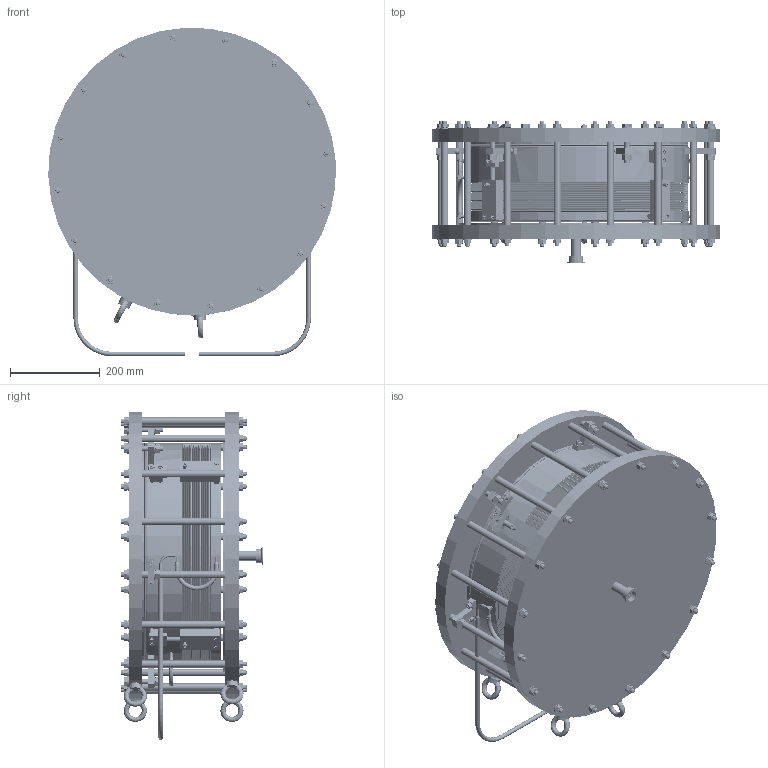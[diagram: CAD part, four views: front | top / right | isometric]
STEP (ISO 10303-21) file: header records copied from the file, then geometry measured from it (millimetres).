
FILE_DESCRIPTION(/* description */ ('靶站充气型波纹管'),/* implementation_level */ '2;1');
FILE_NAME(/* name */ 'D:\work\inventor\缪子线3-4\氦容器5-7\充气型波纹管_表面缪侧_390mm后检漏工装.stp',/* time_stamp */ '2026-09-14T17:06:00+08:00',/* author */ ('Administrator'),/* organization */ (''),/* preprocessor_version */ 'ST-DEVELOPER v18',/* originating_system */ 'Autodesk Inventor 2020',/* authorisation */ '');
FILE_SCHEMA (('AUTOMOTIVE_DESIGN { 1 0 10303 214 3 1 1 }'));
Length unit declared in the file: millimetre
Products named in the file (38): 充气型波纹管_表面缪侧_
390mm后检漏工装; 厚法兰_表面缪侧_390mm 后; 内膨胀节_表面缪侧_390m
m后; 外膨胀节_表面缪侧_390m
m后; 薄膜法兰_表面缪侧_390m
m; 外薄膜_表面缪侧_390mm; 内薄膜-_表面缪侧_390mm; 右两通块_表面缪侧_390m
m; 左两通块_表面缪侧_390m
m; 两通块_表面缪侧_390mm; 软连接管表面缪侧_390mm后; 异型管接头_表面缪侧_
390mm; 气压管_表面缪侧_390mm外侧; 导向机构2; 螺钉 GB/T 70.1 M6 x 30(1); 导向滑块2_表面缪侧_610
mm; 垫圈 GB 93-87 6; 导向滑块1_表面缪侧_610
mm; 螺钉 GB/T 70.1 M6 x 12(1); 螺钉 GB/T 70.1 M6 x 25(1); 挡块; 螺钉 GB/T 70.1 M4 x 12(1); 真空连接管1; 真空连接管3-1; 固定法兰390; 密封法兰390; 六角螺栓 GB/T 5780 M12 x 80; 固定板390; 螺钉 GB/T 70.1 M8 x 30(1); 螺母 GB/T 6170 M12; 平垫圈 GB/T 97.1 12; 限距管用于390; 螺杆用于390; 螺母 GB/T 6170 M10; 平垫圈 GB/T 97.1 10; KF25连接管; KF25; 螺栓 GB 825 B M12
Assembly tree (185 placements, depth 3):
  充气型波纹管_表面缪侧_
390mm后检漏工装
    厚法兰_表面缪侧_390mm 后
    内膨胀节_表面缪侧_390m
m后
    外膨胀节_表面缪侧_390m
m后
    薄膜法兰_表面缪侧_390m
m
    外薄膜_表面缪侧_390mm
    内薄膜-_表面缪侧_390mm
    两通块_表面缪侧_390mm  x2
    右两通块_表面缪侧_390m
m
    软连接管表面缪侧_390mm后  x2
    左两通块_表面缪侧_390m
m
    异型管接头_表面缪侧_
390mm  x2
    气压管_表面缪侧_390mm外侧
    导向机构2  x4
      螺钉 GB/T 70.1 M6 x 30(1)
      垫圈 GB 93-87 6
      导向滑块2_表面缪侧_610
mm
      螺钉 GB/T 70.1 M6 x 25(1)
      导向滑块1_表面缪侧_610
mm
      螺钉 GB/T 70.1 M6 x 12(1)
      挡块
      螺钉 GB/T 70.1 M4 x 12(1)
    真空连接管1  x2
    真空连接管3-1  x2
    固定法兰390
    密封法兰390
    六角螺栓 GB/T 5780 M12 x 80  x6
    平垫圈 GB/T 97.1 12  x12
    固定板390  x6
    螺钉 GB/T 70.1 M8 x 30(1)  x12
    螺母 GB/T 6170 M12  x6
    限距管用于390  x16
    螺母 GB/T 6170 M10  x32
    螺杆用于390  x16
    平垫圈 GB/T 97.1 10  x32
    KF25连接管
    KF25
    螺栓 GB 825 B M12  x4
Bounding box: 639.08 x 317.1 x 730.09 mm (x, y, z)
Volume: 29537821.8 mm3; surface area: 6433710.8 mm2
Topology: 230 solids, 230 shells, 3403 faces, 8279 edges, 5427 vertices
Faces by surface type: plane 1346, cone 1175, cylinder 665, torus 191, bspline 26
Full cylindrical faces by diameter (mm): 3.242 x4, 4 x25, 4.5 x4, 4.917 x28, 5 x7, 6 x57, 6.647 x12, 7 x28, 8 x27, 8.376 x32, 9 x12, 9.18 x4, 10 x65, 10.106 x10, 10.4 x16, 10.5 x32, 11 x54, 12 x14, 12.2 x4, 13 x24, 13.5 x12, 15 x1, 16 x16, 18 x1, 20 x33, 22 x3, 24 x12, 25 x1, 31 x1, 40 x1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
Entity records: 37537 total; most frequent: CARTESIAN_POINT 8008, DIRECTION 6590, ORIENTED_EDGE 5426, AXIS2_PLACEMENT_3D 2793, EDGE_CURVE 2713, VERTEX_POINT 1822, CIRCLE 1500, EDGE_LOOP 1295
